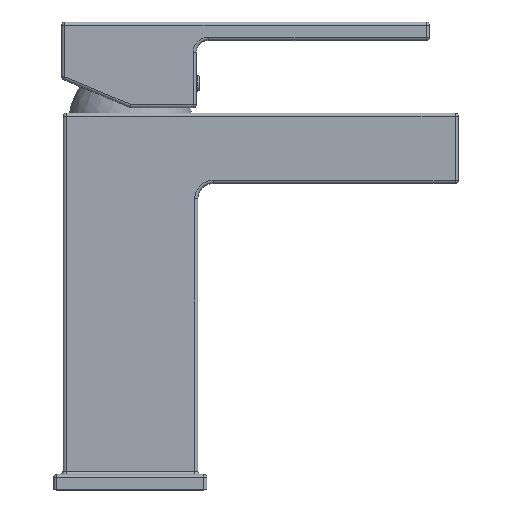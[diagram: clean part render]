
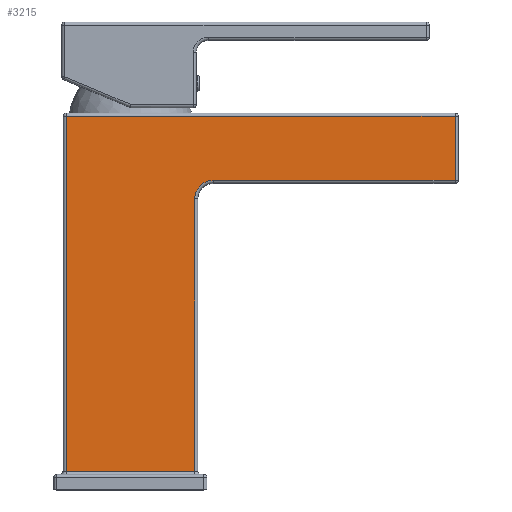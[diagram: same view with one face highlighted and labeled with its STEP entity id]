
A CAD part, top view. The second image highlights one B-rep face of the part: STEP entity #3215.
In plain terms, the highlighted planar face has unit normal (0, 0, 1).
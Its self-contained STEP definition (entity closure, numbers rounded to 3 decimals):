
#65 = LINE ( 'NONE', #2013, #2858 ) ;
#127 = VERTEX_POINT ( 'NONE', #1806 ) ;
#219 = FACE_OUTER_BOUND ( 'NONE', #719, .T. ) ;
#293 = DIRECTION ( 'NONE',  ( 0., 1., 0. ) ) ;
#333 = EDGE_CURVE ( 'NONE', #2343, #127, #1901, .T. ) ;
#344 = VECTOR ( 'NONE', #1054, 1000. ) ;
#388 = EDGE_CURVE ( 'NONE', #127, #399, #980, .T. ) ;
#399 = VERTEX_POINT ( 'NONE', #507 ) ;
#507 = CARTESIAN_POINT ( 'NONE',  ( 27., 101., 22. ) ) ;
#627 = VERTEX_POINT ( 'NONE', #2564 ) ;
#628 = LINE ( 'NONE', #2787, #344 ) ;
#719 = EDGE_LOOP ( 'NONE', ( #3384, #2571, #3281, #3099, #1938, #2878, #723 ) ) ;
#723 = ORIENTED_EDGE ( 'NONE', *, *, #2794, .T. ) ;
#743 = LINE ( 'NONE', #2038, #961 ) ;
#745 = EDGE_CURVE ( 'NONE', #1283, #627, #628, .T. ) ;
#794 = AXIS2_PLACEMENT_3D ( 'NONE', #3369, #3675, #3661 ) ;
#812 = CARTESIAN_POINT ( 'NONE',  ( 106., 101., 22. ) ) ;
#961 = VECTOR ( 'NONE', #293, 1000. ) ;
#980 = CIRCLE ( 'NONE', #794, 6. ) ;
#1054 = DIRECTION ( 'NONE',  ( -1., 0., 0. ) ) ;
#1071 = CARTESIAN_POINT ( 'NONE',  ( -22., 101., 22. ) ) ;
#1204 = CARTESIAN_POINT ( 'NONE',  ( -21., 6., 22. ) ) ;
#1283 = VERTEX_POINT ( 'NONE', #1407 ) ;
#1315 = DIRECTION ( 'NONE',  ( 1., 0., 0. ) ) ;
#1407 = CARTESIAN_POINT ( 'NONE',  ( 106., 122., 22. ) ) ;
#1460 = DIRECTION ( 'NONE',  ( 0., -1., 0. ) ) ;
#1492 = DIRECTION ( 'NONE',  ( 1., 0., 0. ) ) ;
#1522 = CARTESIAN_POINT ( 'NONE',  ( -22., 123., 22. ) ) ;
#1635 = LINE ( 'NONE', #1071, #2271 ) ;
#1685 = EDGE_CURVE ( 'NONE', #627, #1744, #65, .T. ) ;
#1744 = VERTEX_POINT ( 'NONE', #1204 ) ;
#1806 = CARTESIAN_POINT ( 'NONE',  ( 21., 95., 22. ) ) ;
#1871 = DIRECTION ( 'NONE',  ( -1., 0., 0. ) ) ;
#1874 = CARTESIAN_POINT ( 'NONE',  ( 21., 123., 22. ) ) ;
#1901 = LINE ( 'NONE', #1874, #2479 ) ;
#1938 = ORIENTED_EDGE ( 'NONE', *, *, #333, .T. ) ;
#1979 = EDGE_CURVE ( 'NONE', #2214, #1283, #743, .T. ) ;
#2013 = CARTESIAN_POINT ( 'NONE',  ( -21., 123., 22. ) ) ;
#2038 = CARTESIAN_POINT ( 'NONE',  ( 106., 123., 22. ) ) ;
#2214 = VERTEX_POINT ( 'NONE', #812 ) ;
#2271 = VECTOR ( 'NONE', #1315, 1000. ) ;
#2343 = VERTEX_POINT ( 'NONE', #3585 ) ;
#2351 = CARTESIAN_POINT ( 'NONE',  ( -22., 6., 22. ) ) ;
#2421 = DIRECTION ( 'NONE',  ( 0., 0., -1. ) ) ;
#2479 = VECTOR ( 'NONE', #3607, 1000. ) ;
#2556 = EDGE_CURVE ( 'NONE', #1744, #2343, #3344, .T. ) ;
#2564 = CARTESIAN_POINT ( 'NONE',  ( -21., 122., 22. ) ) ;
#2571 = ORIENTED_EDGE ( 'NONE', *, *, #745, .T. ) ;
#2787 = CARTESIAN_POINT ( 'NONE',  ( -22., 122., 22. ) ) ;
#2794 = EDGE_CURVE ( 'NONE', #399, #2214, #1635, .T. ) ;
#2852 = VECTOR ( 'NONE', #1492, 1000. ) ;
#2858 = VECTOR ( 'NONE', #1460, 1000. ) ;
#2878 = ORIENTED_EDGE ( 'NONE', *, *, #388, .T. ) ;
#3099 = ORIENTED_EDGE ( 'NONE', *, *, #2556, .T. ) ;
#3215 = ADVANCED_FACE ( 'NONE', ( #219 ), #3253, .F. ) ;
#3253 = PLANE ( 'NONE',  #3276 ) ;
#3276 = AXIS2_PLACEMENT_3D ( 'NONE', #1522, #2421, #1871 ) ;
#3281 = ORIENTED_EDGE ( 'NONE', *, *, #1685, .T. ) ;
#3344 = LINE ( 'NONE', #2351, #2852 ) ;
#3369 = CARTESIAN_POINT ( 'NONE',  ( 27., 95., 22. ) ) ;
#3384 = ORIENTED_EDGE ( 'NONE', *, *, #1979, .T. ) ;
#3585 = CARTESIAN_POINT ( 'NONE',  ( 21., 6., 22. ) ) ;
#3607 = DIRECTION ( 'NONE',  ( 0., 1., 0. ) ) ;
#3661 = DIRECTION ( 'NONE',  ( -1., 0., 0. ) ) ;
#3675 = DIRECTION ( 'NONE',  ( 0., 0., -1. ) ) ;
